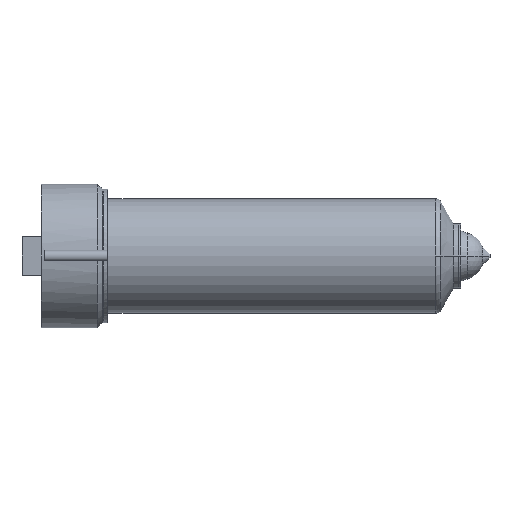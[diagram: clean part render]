
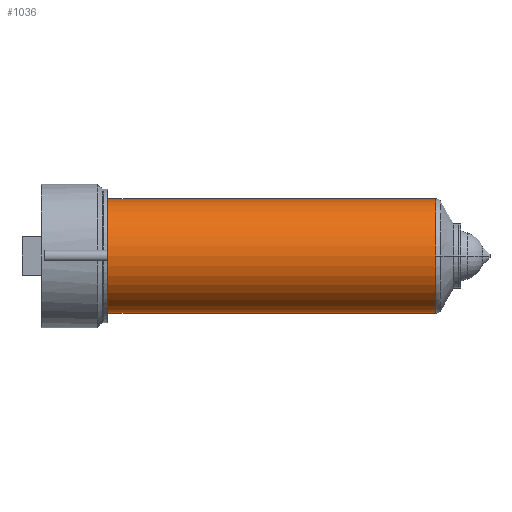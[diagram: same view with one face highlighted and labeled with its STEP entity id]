
A CAD part, front view. The second image highlights one B-rep face of the part: STEP entity #1036.
In plain terms, the highlighted cylindrical face has radius 30 mm (diameter 60 mm), a partial arc.
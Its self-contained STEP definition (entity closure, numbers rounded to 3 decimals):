
#271 = LINE ( 'NONE', #3262, #3075 ) ;
#499 = VECTOR ( 'NONE', #6421, 1000. ) ;
#534 = CARTESIAN_POINT ( 'NONE',  ( 206.662, 0., -30. ) ) ;
#572 = CIRCLE ( 'NONE', #1163, 30. ) ;
#1036 = ADVANCED_FACE ( 'NONE', ( #4236 ), #2891, .T. ) ;
#1163 = AXIS2_PLACEMENT_3D ( 'NONE', #3441, #3461, #3482 ) ;
#1481 = EDGE_CURVE ( 'NONE', #4276, #4497, #5807, .T. ) ;
#1483 = DIRECTION ( 'NONE',  ( 0., -1., 0. ) ) ;
#1562 = CARTESIAN_POINT ( 'NONE',  ( 35., 0., 30. ) ) ;
#1624 = VERTEX_POINT ( 'NONE', #1562 ) ;
#1675 = CARTESIAN_POINT ( 'NONE',  ( 0., 0., 0. ) ) ;
#2076 = EDGE_CURVE ( 'NONE', #6355, #2351, #572, .T. ) ;
#2175 = DIRECTION ( 'NONE',  ( -1., 0., 0. ) ) ;
#2265 = CARTESIAN_POINT ( 'NONE',  ( 206.662, 0., 0. ) ) ;
#2351 = VERTEX_POINT ( 'NONE', #3359 ) ;
#2511 = DIRECTION ( 'NONE',  ( -1., 0., 0. ) ) ;
#2590 = CIRCLE ( 'NONE', #6275, 30. ) ;
#2700 = ORIENTED_EDGE ( 'NONE', *, *, #1481, .F. ) ;
#2744 = DIRECTION ( 'NONE',  ( 0., 0., 1. ) ) ;
#2891 = CYLINDRICAL_SURFACE ( 'NONE', #4297, 30. ) ;
#2916 = EDGE_LOOP ( 'NONE', ( #2700, #5553, #3611, #6434, #6206 ) ) ;
#3014 = AXIS2_PLACEMENT_3D ( 'NONE', #4206, #4189, #4177 ) ;
#3075 = VECTOR ( 'NONE', #3286, 1000. ) ;
#3133 = EDGE_CURVE ( 'NONE', #2351, #1624, #271, .T. ) ;
#3262 = CARTESIAN_POINT ( 'NONE',  ( 0., 0., 30. ) ) ;
#3286 = DIRECTION ( 'NONE',  ( -1., 0., 0. ) ) ;
#3359 = CARTESIAN_POINT ( 'NONE',  ( 206.662, 0., 30. ) ) ;
#3398 = CIRCLE ( 'NONE', #3014, 30. ) ;
#3441 = CARTESIAN_POINT ( 'NONE',  ( 206.662, 0., 0. ) ) ;
#3461 = DIRECTION ( 'NONE',  ( -1., 0., 0. ) ) ;
#3482 = DIRECTION ( 'NONE',  ( 0., -1., 0. ) ) ;
#3611 = ORIENTED_EDGE ( 'NONE', *, *, #2076, .T. ) ;
#4177 = DIRECTION ( 'NONE',  ( 0., 0., 1. ) ) ;
#4189 = DIRECTION ( 'NONE',  ( -1., 0., 0. ) ) ;
#4206 = CARTESIAN_POINT ( 'NONE',  ( 35., 0., 0. ) ) ;
#4236 = FACE_OUTER_BOUND ( 'NONE', #2916, .T. ) ;
#4276 = VERTEX_POINT ( 'NONE', #534 ) ;
#4297 = AXIS2_PLACEMENT_3D ( 'NONE', #1675, #2511, #2744 ) ;
#4308 = EDGE_CURVE ( 'NONE', #4497, #1624, #3398, .T. ) ;
#4497 = VERTEX_POINT ( 'NONE', #6570 ) ;
#5020 = EDGE_CURVE ( 'NONE', #4276, #6355, #2590, .T. ) ;
#5553 = ORIENTED_EDGE ( 'NONE', *, *, #5020, .T. ) ;
#5807 = LINE ( 'NONE', #6236, #499 ) ;
#6206 = ORIENTED_EDGE ( 'NONE', *, *, #4308, .F. ) ;
#6236 = CARTESIAN_POINT ( 'NONE',  ( 0., 0., -30. ) ) ;
#6275 = AXIS2_PLACEMENT_3D ( 'NONE', #2265, #2175, #1483 ) ;
#6355 = VERTEX_POINT ( 'NONE', #6656 ) ;
#6421 = DIRECTION ( 'NONE',  ( -1., 0., 0. ) ) ;
#6434 = ORIENTED_EDGE ( 'NONE', *, *, #3133, .T. ) ;
#6570 = CARTESIAN_POINT ( 'NONE',  ( 35., 0., -30. ) ) ;
#6656 = CARTESIAN_POINT ( 'NONE',  ( 206.662, -30., 0. ) ) ;
